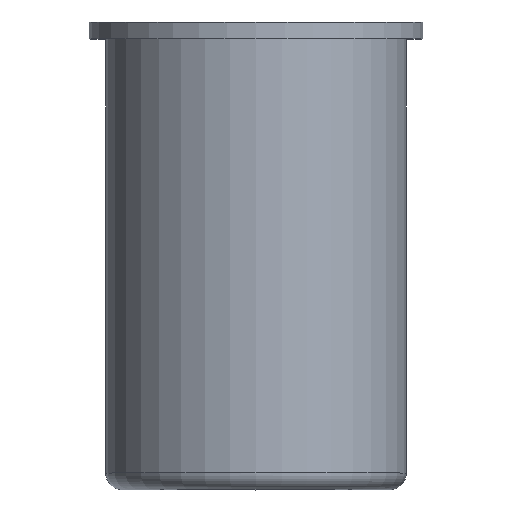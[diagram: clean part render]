
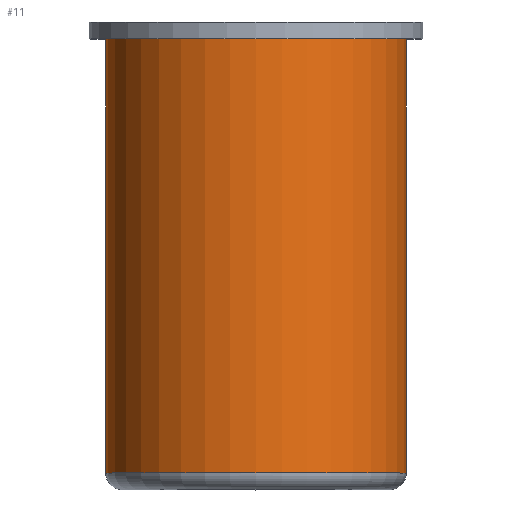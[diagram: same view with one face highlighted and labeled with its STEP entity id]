
A CAD part, top view. The second image highlights one B-rep face of the part: STEP entity #11.
In plain terms, the highlighted cylindrical face has radius 4.5 mm (diameter 9 mm), a full revolution.
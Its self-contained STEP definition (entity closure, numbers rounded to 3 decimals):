
#3 = EDGE_CURVE ( 'NONE', #77, #77, #175, .T. ) ;
#5 = DIRECTION ( 'NONE',  ( 0., -1., 0. ) ) ;
#11 = ADVANCED_FACE ( 'NONE', ( #47, #58 ), #171, .T. ) ;
#12 = VERTEX_POINT ( 'NONE', #23 ) ;
#23 = CARTESIAN_POINT ( 'NONE',  ( 0., -0.5, -4.5 ) ) ;
#44 = AXIS2_PLACEMENT_3D ( 'NONE', #97, #143, #85 ) ;
#47 = FACE_OUTER_BOUND ( 'NONE', #174, .T. ) ;
#48 = AXIS2_PLACEMENT_3D ( 'NONE', #149, #102, #90 ) ;
#58 = FACE_OUTER_BOUND ( 'NONE', #140, .T. ) ;
#77 = VERTEX_POINT ( 'NONE', #120 ) ;
#82 = CIRCLE ( 'NONE', #48, 4.5 ) ;
#85 = DIRECTION ( 'NONE',  ( 0., 0., 1. ) ) ;
#90 = DIRECTION ( 'NONE',  ( 0., 0., -1. ) ) ;
#97 = CARTESIAN_POINT ( 'NONE',  ( 0., -13.5, 0. ) ) ;
#102 = DIRECTION ( 'NONE',  ( 0., -1., 0. ) ) ;
#111 = DIRECTION ( 'NONE',  ( 0., 0., -1. ) ) ;
#117 = CARTESIAN_POINT ( 'NONE',  ( 0., 0., 0. ) ) ;
#120 = CARTESIAN_POINT ( 'NONE',  ( 0., -13.5, 4.5 ) ) ;
#140 = EDGE_LOOP ( 'NONE', ( #179 ) ) ;
#141 = AXIS2_PLACEMENT_3D ( 'NONE', #117, #5, #111 ) ;
#143 = DIRECTION ( 'NONE',  ( 0., 1., 0. ) ) ;
#149 = CARTESIAN_POINT ( 'NONE',  ( 0., -0.5, 0. ) ) ;
#155 = EDGE_CURVE ( 'NONE', #12, #12, #82, .T. ) ;
#170 = ORIENTED_EDGE ( 'NONE', *, *, #3, .T. ) ;
#171 = CYLINDRICAL_SURFACE ( 'NONE', #141, 4.5 ) ;
#174 = EDGE_LOOP ( 'NONE', ( #170 ) ) ;
#175 = CIRCLE ( 'NONE', #44, 4.5 ) ;
#179 = ORIENTED_EDGE ( 'NONE', *, *, #155, .T. ) ;
